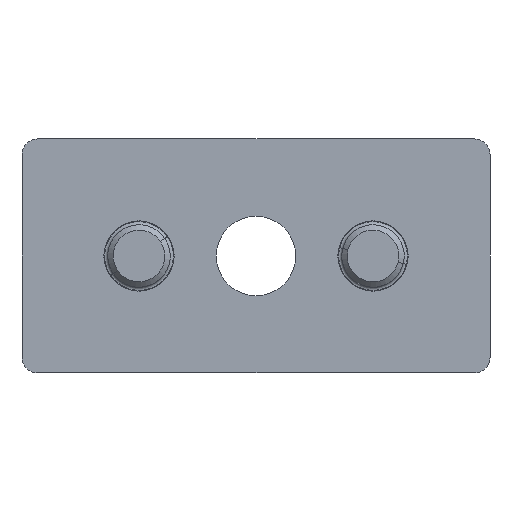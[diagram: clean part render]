
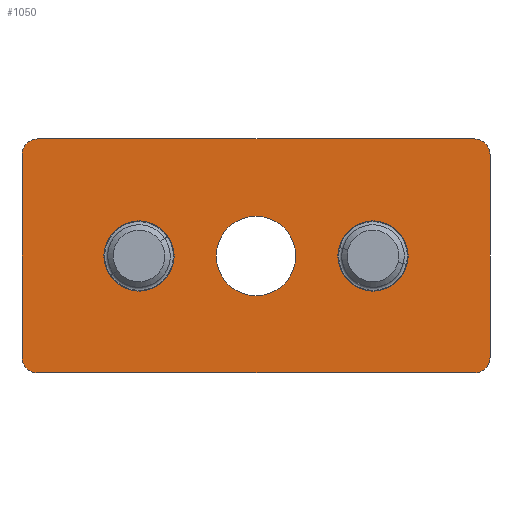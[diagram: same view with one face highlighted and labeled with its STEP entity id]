
A CAD part, front view. The second image highlights one B-rep face of the part: STEP entity #1050.
In plain terms, the highlighted planar face has unit normal (0, -1, 0).
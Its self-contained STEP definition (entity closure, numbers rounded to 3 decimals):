
#3 = DIRECTION ( 'NONE',  ( 0., -1., 0. ) ) ;
#10 = CARTESIAN_POINT ( 'NONE',  ( 13.631, -2.091, -5.346 ) ) ;
#114 = ORIENTED_EDGE ( 'NONE', *, *, #1517, .T. ) ;
#157 = VERTEX_POINT ( 'NONE', #1123 ) ;
#210 = VECTOR ( 'NONE', #2930, 1000. ) ;
#234 = VERTEX_POINT ( 'NONE', #1830 ) ;
#235 = DIRECTION ( 'NONE',  ( 0., -1., 0. ) ) ;
#242 = CARTESIAN_POINT ( 'NONE',  ( -29.369, -2.091, 12.154 ) ) ;
#258 = DIRECTION ( 'NONE',  ( 0., -1., 0. ) ) ;
#274 = CIRCLE ( 'NONE', #1878, 2. ) ;
#301 = FACE_BOUND ( 'NONE', #2303, .T. ) ;
#316 = DIRECTION ( 'NONE',  ( 0., -1., 0. ) ) ;
#324 = CARTESIAN_POINT ( 'NONE',  ( -16.369, -2.091, 3.654 ) ) ;
#362 = EDGE_CURVE ( 'NONE', #2871, #234, #2608, .T. ) ;
#369 = VERTEX_POINT ( 'NONE', #324 ) ;
#488 = AXIS2_PLACEMENT_3D ( 'NONE', #2269, #1120, #3063 ) ;
#492 = LINE ( 'NONE', #1997, #1367 ) ;
#513 = EDGE_LOOP ( 'NONE', ( #1068, #1747 ) ) ;
#565 = CARTESIAN_POINT ( 'NONE',  ( 28.631, -2.091, 12.154 ) ) ;
#635 = CARTESIAN_POINT ( 'NONE',  ( 26.631, -2.091, 14.154 ) ) ;
#656 = CIRCLE ( 'NONE', #1616, 2. ) ;
#686 = VERTEX_POINT ( 'NONE', #2850 ) ;
#740 = AXIS2_PLACEMENT_3D ( 'NONE', #1172, #1898, #2189 ) ;
#759 = DIRECTION ( 'NONE',  ( 0., 0., -1. ) ) ;
#805 = CARTESIAN_POINT ( 'NONE',  ( -29.369, -2.091, -13.846 ) ) ;
#846 = EDGE_CURVE ( 'NONE', #157, #2669, #2328, .T. ) ;
#991 = CIRCLE ( 'NONE', #3133, 4.5 ) ;
#992 = DIRECTION ( 'NONE',  ( -1., 0., 0. ) ) ;
#993 = EDGE_CURVE ( 'NONE', #1237, #369, #1079, .T. ) ;
#994 = CIRCLE ( 'NONE', #1302, 4.5 ) ;
#998 = DIRECTION ( 'NONE',  ( 0., 0., -1. ) ) ;
#1016 = FACE_BOUND ( 'NONE', #2824, .T. ) ;
#1021 = VECTOR ( 'NONE', #2846, 1000. ) ;
#1046 = CARTESIAN_POINT ( 'NONE',  ( 26.631, -2.091, 12.154 ) ) ;
#1050 = ADVANCED_FACE ( 'NONE', ( #1016, #301, #2469, #2031 ), #1759, .T. ) ;
#1058 = EDGE_CURVE ( 'NONE', #3169, #1084, #1513, .T. ) ;
#1068 = ORIENTED_EDGE ( 'NONE', *, *, #362, .T. ) ;
#1079 = CIRCLE ( 'NONE', #2105, 4.5 ) ;
#1084 = VERTEX_POINT ( 'NONE', #2985 ) ;
#1120 = DIRECTION ( 'NONE',  ( 0., -1., 0. ) ) ;
#1123 = CARTESIAN_POINT ( 'NONE',  ( 28.631, -2.091, -13.846 ) ) ;
#1132 = CARTESIAN_POINT ( 'NONE',  ( -1.369, -2.091, -0.846 ) ) ;
#1160 = VERTEX_POINT ( 'NONE', #635 ) ;
#1169 = DIRECTION ( 'NONE',  ( 0., -1., 0. ) ) ;
#1172 = CARTESIAN_POINT ( 'NONE',  ( -1.369, -2.091, -0.846 ) ) ;
#1209 = DIRECTION ( 'NONE',  ( 0., 0., -1. ) ) ;
#1232 = CARTESIAN_POINT ( 'NONE',  ( -29.369, -2.091, -15.846 ) ) ;
#1237 = VERTEX_POINT ( 'NONE', #1936 ) ;
#1284 = CARTESIAN_POINT ( 'NONE',  ( 13.631, -2.091, -0.846 ) ) ;
#1297 = DIRECTION ( 'NONE',  ( 0., -1., 0. ) ) ;
#1302 = AXIS2_PLACEMENT_3D ( 'NONE', #2007, #2707, #2999 ) ;
#1365 = EDGE_CURVE ( 'NONE', #2565, #3159, #656, .T. ) ;
#1367 = VECTOR ( 'NONE', #992, 1000. ) ;
#1463 = ORIENTED_EDGE ( 'NONE', *, *, #2159, .F. ) ;
#1467 = CARTESIAN_POINT ( 'NONE',  ( -29.369, -2.091, -13.846 ) ) ;
#1513 = LINE ( 'NONE', #1232, #210 ) ;
#1517 = EDGE_CURVE ( 'NONE', #1084, #157, #2335, .T. ) ;
#1616 = AXIS2_PLACEMENT_3D ( 'NONE', #242, #316, #998 ) ;
#1637 = DIRECTION ( 'NONE',  ( 0., 0., -1. ) ) ;
#1657 = AXIS2_PLACEMENT_3D ( 'NONE', #1284, #1789, #2569 ) ;
#1666 = CARTESIAN_POINT ( 'NONE',  ( -31.369, -2.091, 12.154 ) ) ;
#1682 = EDGE_CURVE ( 'NONE', #1160, #2565, #492, .T. ) ;
#1743 = DIRECTION ( 'NONE',  ( 0., 0., -1. ) ) ;
#1747 = ORIENTED_EDGE ( 'NONE', *, *, #3170, .T. ) ;
#1759 = PLANE ( 'NONE',  #1856 ) ;
#1779 = LINE ( 'NONE', #2010, #2544 ) ;
#1789 = DIRECTION ( 'NONE',  ( 0., -1., 0. ) ) ;
#1826 = ORIENTED_EDGE ( 'NONE', *, *, #1682, .T. ) ;
#1830 = CARTESIAN_POINT ( 'NONE',  ( -1.369, -2.091, -5.946 ) ) ;
#1856 = AXIS2_PLACEMENT_3D ( 'NONE', #805, #258, #1743 ) ;
#1878 = AXIS2_PLACEMENT_3D ( 'NONE', #1467, #3, #2473 ) ;
#1898 = DIRECTION ( 'NONE',  ( 0., 1., 0. ) ) ;
#1927 = ORIENTED_EDGE ( 'NONE', *, *, #2703, .F. ) ;
#1933 = CARTESIAN_POINT ( 'NONE',  ( -1.369, -2.091, 4.254 ) ) ;
#1936 = CARTESIAN_POINT ( 'NONE',  ( -16.369, -2.091, -5.346 ) ) ;
#1997 = CARTESIAN_POINT ( 'NONE',  ( 26.631, -2.091, 14.154 ) ) ;
#2007 = CARTESIAN_POINT ( 'NONE',  ( -16.369, -2.091, -0.846 ) ) ;
#2010 = CARTESIAN_POINT ( 'NONE',  ( -31.369, -2.091, 12.154 ) ) ;
#2031 = FACE_BOUND ( 'NONE', #513, .T. ) ;
#2101 = CARTESIAN_POINT ( 'NONE',  ( -29.369, -2.091, 14.154 ) ) ;
#2105 = AXIS2_PLACEMENT_3D ( 'NONE', #2187, #1169, #2408 ) ;
#2120 = CIRCLE ( 'NONE', #1657, 4.5 ) ;
#2125 = CIRCLE ( 'NONE', #3079, 2. ) ;
#2159 = EDGE_CURVE ( 'NONE', #2911, #686, #991, .T. ) ;
#2171 = EDGE_CURVE ( 'NONE', #3159, #2855, #1779, .T. ) ;
#2187 = CARTESIAN_POINT ( 'NONE',  ( -16.369, -2.091, -0.846 ) ) ;
#2189 = DIRECTION ( 'NONE',  ( 0., 0., -1. ) ) ;
#2269 = CARTESIAN_POINT ( 'NONE',  ( 26.631, -2.091, -13.846 ) ) ;
#2293 = EDGE_CURVE ( 'NONE', #2855, #3169, #274, .T. ) ;
#2297 = DIRECTION ( 'NONE',  ( 0., 0., -1. ) ) ;
#2303 = EDGE_LOOP ( 'NONE', ( #1927, #1463 ) ) ;
#2328 = LINE ( 'NONE', #2362, #1021 ) ;
#2335 = CIRCLE ( 'NONE', #488, 2. ) ;
#2351 = AXIS2_PLACEMENT_3D ( 'NONE', #1132, #2523, #2297 ) ;
#2362 = CARTESIAN_POINT ( 'NONE',  ( 28.631, -2.091, -13.846 ) ) ;
#2386 = ORIENTED_EDGE ( 'NONE', *, *, #2436, .F. ) ;
#2408 = DIRECTION ( 'NONE',  ( 0., 0., -1. ) ) ;
#2436 = EDGE_CURVE ( 'NONE', #369, #1237, #994, .T. ) ;
#2462 = CARTESIAN_POINT ( 'NONE',  ( -31.369, -2.091, -13.846 ) ) ;
#2469 = FACE_OUTER_BOUND ( 'NONE', #2624, .T. ) ;
#2473 = DIRECTION ( 'NONE',  ( 0., 0., -1. ) ) ;
#2483 = ORIENTED_EDGE ( 'NONE', *, *, #1058, .T. ) ;
#2523 = DIRECTION ( 'NONE',  ( 0., 1., 0. ) ) ;
#2529 = ORIENTED_EDGE ( 'NONE', *, *, #2171, .T. ) ;
#2535 = CIRCLE ( 'NONE', #740, 5.1 ) ;
#2544 = VECTOR ( 'NONE', #759, 1000. ) ;
#2565 = VERTEX_POINT ( 'NONE', #2101 ) ;
#2569 = DIRECTION ( 'NONE',  ( 0., 0., -1. ) ) ;
#2595 = ORIENTED_EDGE ( 'NONE', *, *, #3123, .T. ) ;
#2608 = CIRCLE ( 'NONE', #2351, 5.1 ) ;
#2624 = EDGE_LOOP ( 'NONE', ( #2903, #2483, #114, #2774, #2595, #1826, #2890, #2529 ) ) ;
#2659 = CARTESIAN_POINT ( 'NONE',  ( -29.369, -2.091, -15.846 ) ) ;
#2669 = VERTEX_POINT ( 'NONE', #565 ) ;
#2703 = EDGE_CURVE ( 'NONE', #686, #2911, #2120, .T. ) ;
#2707 = DIRECTION ( 'NONE',  ( 0., -1., 0. ) ) ;
#2774 = ORIENTED_EDGE ( 'NONE', *, *, #846, .T. ) ;
#2824 = EDGE_LOOP ( 'NONE', ( #2386, #2840 ) ) ;
#2840 = ORIENTED_EDGE ( 'NONE', *, *, #993, .F. ) ;
#2846 = DIRECTION ( 'NONE',  ( 0., 0., 1. ) ) ;
#2850 = CARTESIAN_POINT ( 'NONE',  ( 13.631, -2.091, 3.654 ) ) ;
#2855 = VERTEX_POINT ( 'NONE', #2462 ) ;
#2871 = VERTEX_POINT ( 'NONE', #1933 ) ;
#2874 = CARTESIAN_POINT ( 'NONE',  ( 13.631, -2.091, -0.846 ) ) ;
#2890 = ORIENTED_EDGE ( 'NONE', *, *, #1365, .T. ) ;
#2903 = ORIENTED_EDGE ( 'NONE', *, *, #2293, .T. ) ;
#2911 = VERTEX_POINT ( 'NONE', #10 ) ;
#2930 = DIRECTION ( 'NONE',  ( 1., 0., 0. ) ) ;
#2985 = CARTESIAN_POINT ( 'NONE',  ( 26.631, -2.091, -15.846 ) ) ;
#2999 = DIRECTION ( 'NONE',  ( 0., 0., -1. ) ) ;
#3063 = DIRECTION ( 'NONE',  ( 0., 0., -1. ) ) ;
#3079 = AXIS2_PLACEMENT_3D ( 'NONE', #1046, #1297, #1637 ) ;
#3123 = EDGE_CURVE ( 'NONE', #2669, #1160, #2125, .T. ) ;
#3133 = AXIS2_PLACEMENT_3D ( 'NONE', #2874, #235, #1209 ) ;
#3159 = VERTEX_POINT ( 'NONE', #1666 ) ;
#3169 = VERTEX_POINT ( 'NONE', #2659 ) ;
#3170 = EDGE_CURVE ( 'NONE', #234, #2871, #2535, .T. ) ;
